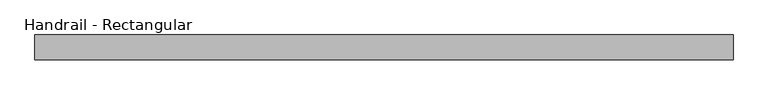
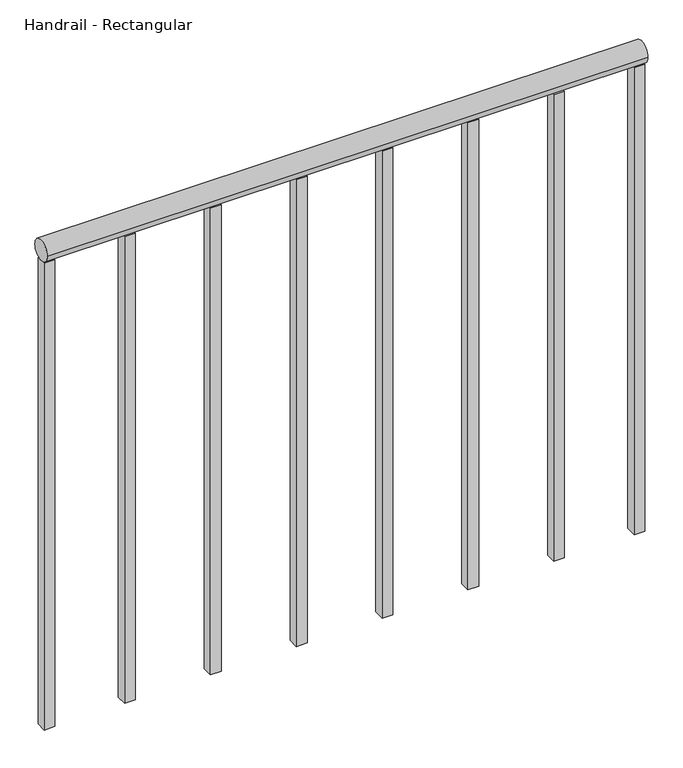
"""IFC4 building model written with IfcOpenShell, lengths in millimetres: railing geometry, Handrail - Rectangular."""

from ifc_helpers import new_model, si_unit, point, frame, frame_2d, origin, place, context, project, spatial, polyline, circle_curve, trimmed, segment, composite_curve, outline, extrude, source, transform, mapped, element, save


def handrail_rectangular_3865f20d(model_context):
    return source(origin(), model_context, "Body", "SweptSolid", [
        extrude(outline(composite_curve([segment(trimmed(circle_curve(frame_2d((-35553.1683133, 10039.35)), 19.05), [point((-35572.2183133, 10039.35))], [point((-35534.1183133, 10039.35))], False, "CARTESIAN"), True, "CONTINUOUS"), segment(trimmed(circle_curve(frame_2d((-35553.1683133, 10039.35)), 19.05), [point((-35534.1183133, 10039.35))], [point((-35572.2183133, 10039.35))], False, "CARTESIAN"), True, "CONTINUOUS")], self_intersect=False)), frame((1027.1410437, 0.0, 0.0), z_axis=(1.0, 0.0, 0.0), x_axis=(0.0, 1.0, 0.0)), (0.0, 0.0, 1.0), 1066.8),
        extrude(outline(polyline([(1932.0160437, -35543.6433133), (1951.0660437, -35543.6433133), (1951.0660437, -35562.6933133), (1932.0160437, -35562.6933133), (1932.0160437, -35543.6433133)])), frame((0.0, 0.0, 9144.0), z_axis=(0.0, 0.0, 1.0), x_axis=(1.0, 0.0, 0.0)), (0.0, 0.0, 1.0), 876.3),
        extrude(outline(polyline([(1779.6160437, -35543.6433133), (1798.6660437, -35543.6433133), (1798.6660437, -35562.6933133), (1779.6160437, -35562.6933133), (1779.6160437, -35543.6433133)])), frame((0.0, 0.0, 9144.0), z_axis=(0.0, 0.0, 1.0), x_axis=(1.0, 0.0, 0.0)), (0.0, 0.0, 1.0), 876.3),
        extrude(outline(polyline([(1627.2160437, -35543.6433133), (1646.2660437, -35543.6433133), (1646.2660437, -35562.6933133), (1627.2160437, -35562.6933133), (1627.2160437, -35543.6433133)])), frame((0.0, 0.0, 9144.0), z_axis=(0.0, 0.0, 1.0), x_axis=(1.0, 0.0, 0.0)), (0.0, 0.0, 1.0), 876.3),
        extrude(outline(polyline([(1474.8160437, -35543.6433133), (1493.8660437, -35543.6433133), (1493.8660437, -35562.6933133), (1474.8160437, -35562.6933133), (1474.8160437, -35543.6433133)])), frame((0.0, 0.0, 9144.0), z_axis=(0.0, 0.0, 1.0), x_axis=(1.0, 0.0, 0.0)), (0.0, 0.0, 1.0), 876.3),
        extrude(outline(polyline([(1322.4160437, -35543.6433133), (1341.4660437, -35543.6433133), (1341.4660437, -35562.6933133), (1322.4160437, -35562.6933133), (1322.4160437, -35543.6433133)])), frame((0.0, 0.0, 9144.0), z_axis=(0.0, 0.0, 1.0), x_axis=(1.0, 0.0, 0.0)), (0.0, 0.0, 1.0), 876.3),
        extrude(outline(polyline([(1170.0160437, -35543.6433133), (1189.0660437, -35543.6433133), (1189.0660437, -35562.6933133), (1170.0160437, -35562.6933133), (1170.0160437, -35543.6433133)])), frame((0.0, 0.0, 9144.0), z_axis=(0.0, 0.0, 1.0), x_axis=(1.0, 0.0, 0.0)), (0.0, 0.0, 1.0), 876.3),
        extrude(outline(polyline([(2074.8910437, -35543.6433133), (2093.9410437, -35543.6433133), (2093.9410437, -35562.6933133), (2074.8910437, -35562.6933133), (2074.8910437, -35543.6433133)])), frame((0.0, 0.0, 9144.0), z_axis=(0.0, 0.0, 1.0), x_axis=(1.0, 0.0, 0.0)), (0.0, 0.0, 1.0), 876.3),
        extrude(outline(polyline([(1027.1410437, -35543.6433133), (1046.1910437, -35543.6433133), (1046.1910437, -35562.6933133), (1027.1410437, -35562.6933133), (1027.1410437, -35543.6433133)])), frame((0.0, 0.0, 9144.0), z_axis=(0.0, 0.0, 1.0), x_axis=(1.0, 0.0, 0.0)), (0.0, 0.0, 1.0), 876.3),
    ])


if __name__ == "__main__":
    model = new_model("IFC4")
    model_context = context("Model", 3, world=origin())
    ifc_project = project(units=[si_unit("LENGTHUNIT", "METRE", prefix="MILLI")], contexts=[model_context])
    site = spatial("IfcSite", under=ifc_project)
    building = spatial("IfcBuilding", under=site)
    placement = place(None, origin())
    handrail_rectangular_shape = handrail_rectangular_3865f20d(model_context)
    element("IfcRailing", 1, ObjectType="Handrail - Rectangular", at=placement, inside=building, context=model_context, shape_type="MappedRepresentation", body=[
        mapped(handrail_rectangular_shape, transform((0.0, 0.0, 0.0), x_axis=(1.0, 0.0, 0.0), y_axis=(0.0, 1.0, 0.0), z_axis=(0.0, 0.0, 1.0))),
    ])
    save(model, "model.ifc")
